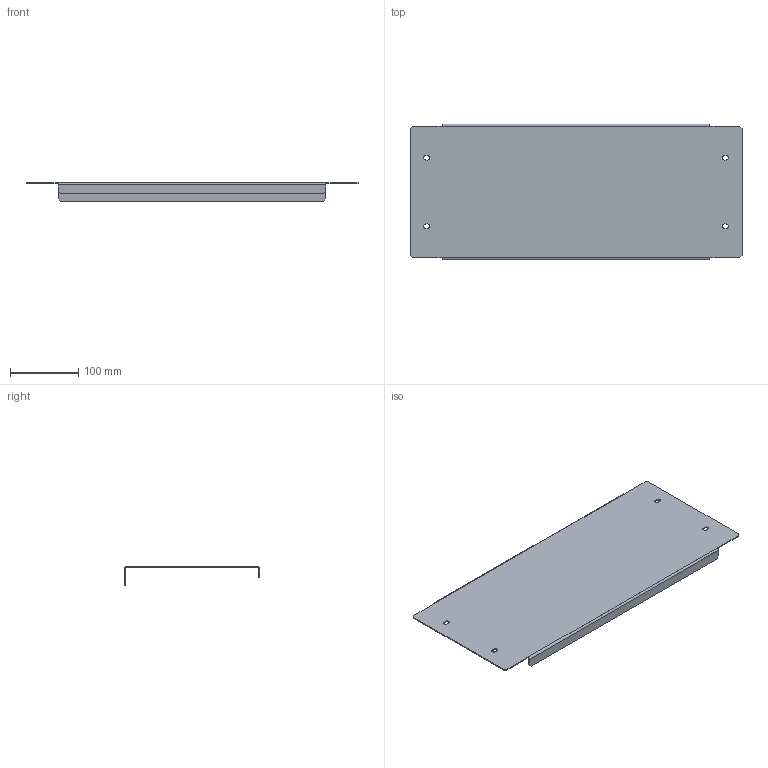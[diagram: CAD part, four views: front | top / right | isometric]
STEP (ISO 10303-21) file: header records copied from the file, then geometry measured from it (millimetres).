
FILE_DESCRIPTION (( 'STEP AP203' ), '1' );
FILE_NAME ('ZA 60 H Ïàíåëü öîêîëÿ.STEP', '2012-11-20T05:12:40', ( 'system' ), ( '' ), 'SwSTEP 2.0', 'SolidWorks 2012', '' );
FILE_SCHEMA (( 'CONFIG_CONTROL_DESIGN' ));
Length unit declared in the file: millimetre
Products named in the file (1): ZA 60 H Ïàíåëü öîêîëÿ
Bounding box: 486.5 x 199 x 27 mm (x, y, z)
Volume: 155647.2 mm3; surface area: 224500.1 mm2
Topology: 1 solids, 1 shells, 54 faces, 140 edges, 88 vertices
Faces by surface type: plane 38, cylinder 16
Entity records: 1721 total; most frequent: CARTESIAN_POINT 283, DIRECTION 282, ORIENTED_EDGE 280, EDGE_CURVE 140, LINE 108, VECTOR 108, VERTEX_POINT 88, AXIS2_PLACEMENT_3D 87
